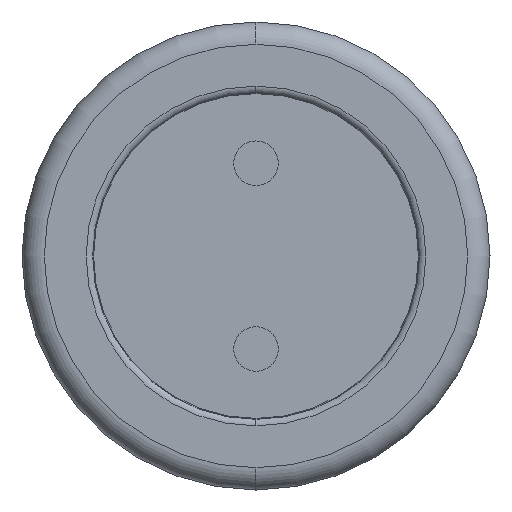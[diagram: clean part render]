
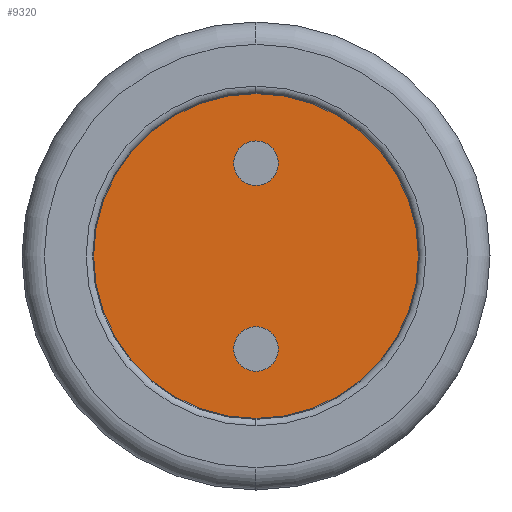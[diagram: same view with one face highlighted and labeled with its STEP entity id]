
A CAD part, left-side view. The second image highlights one B-rep face of the part: STEP entity #9320.
In plain terms, the highlighted planar face has unit normal (-1, 0, 0).
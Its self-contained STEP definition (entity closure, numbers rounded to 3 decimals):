
#40=CARTESIAN_POINT('',(-7.8,0.,0.002));
#41=DIRECTION('',(-1.,0.,0.));
#42=DIRECTION('',(0.,0.,-1.));
#43=AXIS2_PLACEMENT_3D('',#40,#41,#42);
#45=CARTESIAN_POINT('',(-7.8,0.,0.002));
#46=DIRECTION('',(1.,0.,0.));
#47=DIRECTION('',(0.,0.,-1.));
#48=AXIS2_PLACEMENT_3D('',#45,#46,#47);
#50=CARTESIAN_POINT('',(-7.8,0.,-1.25));
#51=DIRECTION('',(-1.,0.,0.));
#52=DIRECTION('',(0.,0.,-1.));
#53=AXIS2_PLACEMENT_3D('',#50,#51,#52);
#55=CARTESIAN_POINT('',(-7.8,0.,-1.25));
#56=DIRECTION('',(-1.,0.,0.));
#57=DIRECTION('',(0.,0.,1.));
#58=AXIS2_PLACEMENT_3D('',#55,#56,#57);
#60=CARTESIAN_POINT('',(-7.8,0.,1.25));
#61=DIRECTION('',(-1.,0.,0.));
#62=DIRECTION('',(0.,0.,-1.));
#63=AXIS2_PLACEMENT_3D('',#60,#61,#62);
#65=CARTESIAN_POINT('',(-7.8,0.,1.25));
#66=DIRECTION('',(-1.,0.,0.));
#67=DIRECTION('',(0.,0.,1.));
#68=AXIS2_PLACEMENT_3D('',#65,#66,#67);
#7001=CARTESIAN_POINT('',(-7.8,0.,-2.198));
#7002=VERTEX_POINT('',#7001);
#7003=CARTESIAN_POINT('',(-7.8,0.,2.202));
#7004=VERTEX_POINT('',#7003);
#7009=CARTESIAN_POINT('',(-7.8,0.,-1.55));
#7010=CARTESIAN_POINT('',(-7.8,0.,-0.95));
#7011=VERTEX_POINT('',#7009);
#7012=VERTEX_POINT('',#7010);
#7013=CARTESIAN_POINT('',(-7.8,0.,0.95));
#7014=CARTESIAN_POINT('',(-7.8,0.,1.55));
#7015=VERTEX_POINT('',#7013);
#7016=VERTEX_POINT('',#7014);
#9299=CARTESIAN_POINT('',(-7.8,0.,0.002));
#9300=DIRECTION('',(1.,0.,0.));
#9301=DIRECTION('',(0.,0.,1.));
#9302=AXIS2_PLACEMENT_3D('',#9299,#9300,#9301);
#9303=PLANE('',#9302);
#9304=ORIENTED_EDGE('',*,*,#9278,.F.);
#9305=ORIENTED_EDGE('',*,*,#9294,.T.);
#9306=EDGE_LOOP('',(#9304,#9305));
#9307=FACE_OUTER_BOUND('',#9306,.F.);
#9309=ORIENTED_EDGE('',*,*,#9308,.T.);
#9311=ORIENTED_EDGE('',*,*,#9310,.T.);
#9312=EDGE_LOOP('',(#9309,#9311));
#9313=FACE_BOUND('',#9312,.F.);
#9315=ORIENTED_EDGE('',*,*,#9314,.T.);
#9317=ORIENTED_EDGE('',*,*,#9316,.T.);
#9318=EDGE_LOOP('',(#9315,#9317));
#9319=FACE_BOUND('',#9318,.F.);
#9320=ADVANCED_FACE('',(#9307,#9313,#9319),#9303,.F.);
#44=CIRCLE('',#43,2.2);
#49=CIRCLE('',#48,2.2);
#54=CIRCLE('',#53,0.3);
#59=CIRCLE('',#58,0.3);
#64=CIRCLE('',#63,0.3);
#69=CIRCLE('',#68,0.3);
#9278=EDGE_CURVE('',#7002,#7004,#44,.T.);
#9294=EDGE_CURVE('',#7002,#7004,#49,.T.);
#9308=EDGE_CURVE('',#7011,#7012,#54,.T.);
#9310=EDGE_CURVE('',#7012,#7011,#59,.T.);
#9314=EDGE_CURVE('',#7015,#7016,#64,.T.);
#9316=EDGE_CURVE('',#7016,#7015,#69,.T.);
